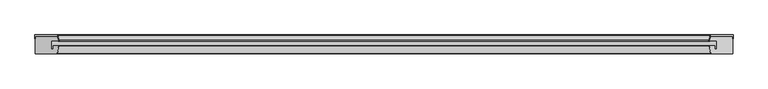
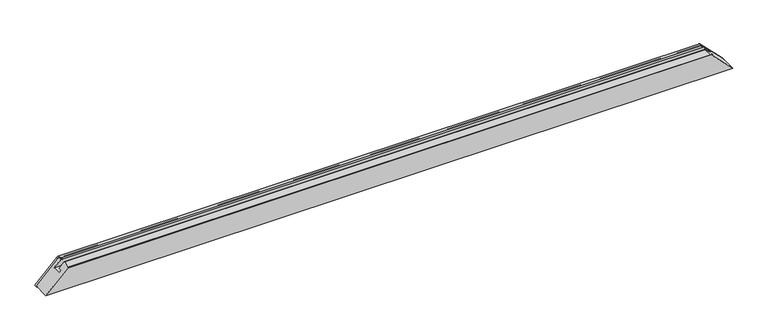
"""IFC4 building model written with IfcOpenShell, lengths in millimetres: proxy geometry, Weiku - Montante - Caixilho fixo 02.2.01.005 : Weiku - Montante - Caixilho fixo 02.2.01.005."""

import ifcopenshell
import ifcopenshell.guid

model = None  # the IFC model being written
_history = None  # IfcOwnerHistory: only IFC2X3 demands one
_inside = {}  # id of a spatial element -> (the spatial element, [elements in it])
_under = {}  # id of a project, library or spatial element -> (it, [spatial elements below it])
_declared = {}  # id of a project -> (the project, [libraries it declares])
_typed = {}  # id of a type object -> (the type object, [elements of that type])
_made_of = {}  # id of a material, layer set ... -> (it, [elements and type objects made of it])


def new_model(schema):
    """Start an empty IFC model of exactly this schema.

    Asked for "IFC4X3", IfcOpenShell would pick the latest addendum, in which some entities
    have other attributes; the version numbers below select the first issue.
    IFC2X3 requires an IfcOwnerHistory on every rooted entity: one is made here for all.
    """
    global model, _history
    if schema == "IFC4X3":
        model = ifcopenshell.file(schema_version=(4, 3, 0, 0))
    else:
        model = ifcopenshell.file(schema=schema)
    _inside.clear()
    _under.clear()
    _declared.clear()
    _typed.clear()
    _made_of.clear()
    _history = None
    if model.schema == "IFC2X3":
        org = make("IfcOrganization", Name="unknown")
        user = make(
            "IfcPersonAndOrganization",
            ThePerson=make("IfcPerson", FamilyName="unknown"),
            TheOrganization=org,
        )
        app = make(
            "IfcApplication",
            ApplicationDeveloper=org,
            Version="unknown",
            ApplicationFullName="unknown",
            ApplicationIdentifier="unknown",
        )
        _history = make(
            "IfcOwnerHistory",
            OwningUser=user,
            OwningApplication=app,
            ChangeAction="ADDED",
            CreationDate=0,
        )
    return model


def make(cls, **values):
    """One entity of the class cls with the attributes given. An attribute that is None is left unset."""
    return model.create_entity(
        cls, **{name: value for name, value in values.items() if value is not None}
    )


def rooted(cls, **values):
    """An entity with a GlobalId (a new one), such as an element, a storey or a relation."""
    return make(cls, GlobalId=ifcopenshell.guid.new(), OwnerHistory=_history, **values)


def si_unit(unit_type, name, prefix=None):
    """IfcSIUnit, for example si_unit("LENGTHUNIT", "METRE", prefix="MILLI")."""
    return make("IfcSIUnit", UnitType=unit_type, Prefix=prefix, Name=name)


def assignment(units):
    """IfcUnitAssignment: the units of a project."""
    return None if units is None else make("IfcUnitAssignment", Units=units)


def point(xyz):
    """IfcCartesianPoint."""
    return None if xyz is None else make("IfcCartesianPoint", Coordinates=xyz)


def direction(xyz):
    """IfcDirection."""
    return None if xyz is None else make("IfcDirection", DirectionRatios=xyz)


def frame(location, z_axis=None, x_axis=None):
    """IfcAxis2Placement3D, a coordinate frame: its origin and axes. An axis left out is left unset."""
    return make(
        "IfcAxis2Placement3D",
        Location=point(location),
        Axis=direction(z_axis),
        RefDirection=direction(x_axis),
    )


def origin():
    """The frame at (0, 0, 0) with its axes left unset."""
    return frame((0.0, 0.0, 0.0))


def place(relative_to, where):
    """IfcLocalPlacement: puts the frame where relative to a parent placement (None: the world)."""
    return make(
        "IfcLocalPlacement", PlacementRelTo=relative_to, RelativePlacement=where
    )


def context(
    kind, dimensions, precision=None, world=None, true_north=None, identifier=None
):
    """IfcGeometricRepresentationContext, for example the 3D "Model" context."""
    return make(
        "IfcGeometricRepresentationContext",
        ContextIdentifier=identifier,
        ContextType=kind,
        CoordinateSpaceDimension=dimensions,
        Precision=precision,
        WorldCoordinateSystem=world,
        TrueNorth=true_north,
    )


def project(units=None, contexts=None):
    """IfcProject with its units and contexts."""
    return rooted(
        "IfcProject",
        Name="project",
        RepresentationContexts=contexts,
        UnitsInContext=assignment(units),
    )


def spatial(cls, under=None, at=None, **own):
    """A site, building, storey or space (cls), placed at a placement, below another one or the project."""
    s = rooted(cls, ObjectPlacement=at, **own)
    if under is not None:
        _under.setdefault(under.id(), (under, []))[1].append(s)
    return s


def polyline(points):
    """IfcPolyline through the points."""
    return make("IfcPolyline", Points=[point(p) for p in points])


def ellipse_curve(where, semi_axis1, semi_axis2):
    """IfcEllipse in the frame where."""
    return make(
        "IfcEllipse", Position=where, SemiAxis1=semi_axis1, SemiAxis2=semi_axis2
    )


def shape(context_of_items, identifier, shape_type, items):
    """IfcShapeRepresentation: the items that make up one representation, for example the "Body"."""
    return make(
        "IfcShapeRepresentation",
        ContextOfItems=context_of_items,
        RepresentationIdentifier=identifier,
        RepresentationType=shape_type,
        Items=items,
    )


def source(mapping_origin, context_of_items, identifier, shape_type, items):
    """IfcRepresentationMap: a shape defined once, which mapped items show again and again."""
    return make(
        "IfcRepresentationMap",
        MappingOrigin=mapping_origin,
        MappedRepresentation=shape(context_of_items, identifier, shape_type, items),
    )


def transform(
    local_origin,
    x_axis=None,
    y_axis=None,
    z_axis=None,
    scale=None,
    scale2=None,
    scale3=None,
    uniform=True,
):
    """IfcCartesianTransformationOperator3D, or its non-uniform kind. x_axis, y_axis, z_axis: its Axis1, 2, 3."""
    if uniform:
        return make(
            "IfcCartesianTransformationOperator3D",
            Axis1=direction(x_axis),
            Axis2=direction(y_axis),
            LocalOrigin=point(local_origin),
            Scale=scale,
            Axis3=direction(z_axis),
        )
    return make(
        "IfcCartesianTransformationOperator3DnonUniform",
        Axis1=direction(x_axis),
        Axis2=direction(y_axis),
        LocalOrigin=point(local_origin),
        Scale=scale,
        Axis3=direction(z_axis),
        Scale2=scale2,
        Scale3=scale3,
    )


def mapped(mapping_source, mapping_target):
    """IfcMappedItem: shows the shape of a source again, moved by a transform."""
    return make(
        "IfcMappedItem", MappingSource=mapping_source, MappingTarget=mapping_target
    )


def made_of(thing, what):
    """Note that an element or type object is made of a material, layer set ...; save() writes the relation."""
    if what is not None:
        _made_of.setdefault(what.id(), (what, []))[1].append(thing)
    return thing


def element(
    cls,
    number,
    at=None,
    inside=None,
    cuts=None,
    type_object=None,
    material=None,
    context=None,
    identifier="Body",
    shape_type=None,
    held_by="IfcProductDefinitionShape",
    body=None,
    shapes=None,
    **own,
):
    """One element of the class cls, such as IfcWall. Its Tag is "e" and its number.

    at: its placement. inside: the storey or other place that contains it. cuts: it is an
    opening in that element (IfcRelVoidsElement). A single representation is given by context,
    identifier, shape_type and body (its items); several are given by shapes. held_by: the class
    of the entity that holds the representations. save() writes the other relations.
    """
    e = rooted(cls, Tag="e%d" % number, ObjectPlacement=at, **own)
    if body is not None:
        shapes = [shape(context, identifier, shape_type, body)]
    if shapes is not None:
        e.Representation = make(held_by, Representations=shapes)
    if inside is not None:
        _inside.setdefault(inside.id(), (inside, []))[1].append(e)
    if cuts is not None:
        rooted(
            "IfcRelVoidsElement", RelatingBuildingElement=cuts, RelatedOpeningElement=e
        )
    if type_object is not None:
        _typed.setdefault(type_object.id(), (type_object, []))[1].append(e)
    return made_of(e, material)


def aggregate(whole, parts):
    """IfcRelAggregates: a whole, such as a stair, and the parts it consists of."""
    return rooted("IfcRelAggregates", RelatingObject=whole, RelatedObjects=parts)


def save(model, path):
    """Write the relations noted so far, then the file.

    IfcRelAggregates (storeys below a building ...), IfcRelContainedInSpatialStructure (elements
    in a storey), IfcRelDefinesByType, IfcRelAssociatesMaterial and IfcRelDeclares: one each for
    every whole, place, type object, material and project.
    """
    for whole, parts in _under.values():
        aggregate(whole, parts)
    for where, things in _inside.values():
        rooted(
            "IfcRelContainedInSpatialStructure",
            RelatedElements=things,
            RelatingStructure=where,
        )
    for kind, things in _typed.values():
        rooted("IfcRelDefinesByType", RelatedObjects=things, RelatingType=kind)
    for what, things in _made_of.values():
        rooted("IfcRelAssociatesMaterial", RelatedObjects=things, RelatingMaterial=what)
    for by, libraries in _declared.values():
        rooted("IfcRelDeclares", RelatingContext=by, RelatedDefinitions=libraries)
    model.write(path)


def plane_surface(at):
    """IfcPlane: the flat surface through the origin of the frame at, square to its z axis."""
    return make("IfcPlane", Position=at)


def cylinder_surface(at, radius):
    """IfcCylindricalSurface: all points at the distance radius from the z axis of the frame at."""
    return make("IfcCylindricalSurface", Position=at, Radius=radius)


def revolved_surface(curve, axis_point, axis_direction):
    """IfcSurfaceOfRevolution: the curve turned about the line through axis_point along axis_direction."""
    return make(
        "IfcSurfaceOfRevolution",
        SweptCurve=make("IfcArbitraryOpenProfileDef", ProfileType="CURVE", Curve=curve),
        AxisPosition=make("IfcAxis1Placement", Location=point(axis_point), Axis=direction(axis_direction)),
    )


def advanced_brep(points, edges, surfaces, faces):
    """IfcAdvancedBrep: a solid bounded by faces that lie on surfaces and meet in shared edges.

    An edge is (start, end): straight between two places in points (the first is 0);
    or (start, end, curve); or (start, end, curve, False) where it runs against its curve.
    A face is (place in surfaces, loops), or (place, loops, False) where it looks against
    its surface's normal. A loop lists edges by number (the first is 1), with a minus sign
    where the edge is run from its end to its start. The first loop is the outer one.
    """
    corners = [point(p) for p in points]
    vertices = [make("IfcVertexPoint", VertexGeometry=c) for c in corners]
    made = []
    for start, end, *more in edges:
        made.append(
            make(
                "IfcEdgeCurve",
                EdgeStart=vertices[start],
                EdgeEnd=vertices[end],
                EdgeGeometry=more[0] if more else make("IfcPolyline", Points=[corners[start], corners[end]]),
                SameSense=more[1] if len(more) > 1 else True,
            )
        )
    hull = []
    for where, loops, *sense in faces:
        bounds = []
        for j, loop in enumerate(loops):
            ring = [make("IfcOrientedEdge", EdgeElement=made[abs(k) - 1], Orientation=k > 0) for k in loop]
            bounds.append(
                make(
                    "IfcFaceOuterBound" if j == 0 else "IfcFaceBound",
                    Bound=make("IfcEdgeLoop", EdgeList=ring),
                    Orientation=True,
                )
            )
        hull.append(make("IfcAdvancedFace", Bounds=bounds, FaceSurface=surfaces[where], SameSense=sense[0] if sense else True))
    return make("IfcAdvancedBrep", Outer=make("IfcClosedShell", CfsFaces=hull))


def generic_models_b147638b(model_context):
    return source(origin(), model_context, "Body", "AdvancedBrep", [
        advanced_brep(
        [(998.0, 43.5137905, -1.0), (998.0, 54.0, -1.0), (932.9663236, 54.0, 64.0336764), (932.0003978, 53.258819, 64.9996022), (928.1863753, 39.0246933, 68.8136247), (930.8909676, 35.5, 66.1090324), (930.8909676, 37.5, 66.1090324), (930.118227, 38.5070552, 66.881773), (932.6019557, 47.7764571, 64.3980443), (935.4997332, 50.0, 61.5002668), (997.0, 50.0, 0.0), (997.0, 43.5137905, 0.0), (-998.0, 54.0, -1.0), (-998.0, 43.5137905, -1.0), (-997.0, 43.5137905, 0.0), (-997.0, 50.0, 0.0), (-935.4997332, 50.0, 61.5002668), (-932.6019557, 47.7764571, 64.3980443), (-930.118227, 38.5070552, 66.881773), (-930.8909676, 37.5, 66.1090324), (-930.8909676, 35.5, 66.1090324), (-928.1863753, 39.0246933, 68.8136247), (-932.0003978, 53.258819, 64.9996022), (-932.9663236, 54.0, 64.0336764)],
        [
            (0, 1),
            (1, 2),
            (2, 3, ellipse_curve(frame((932.9663236, 53.0, 64.0336764), z_axis=(0.7071067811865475, 0.0, 0.7071067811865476), x_axis=(-0.7071067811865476, 0.0, 0.7071067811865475)), 1.4142136, 1.0)),
            (3, 4),
            (4, 5, ellipse_curve(frame((930.8909676, 38.3, 66.1090324), z_axis=(0.7071067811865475, 0.0, 0.7071067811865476), x_axis=(-0.7071067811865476, 0.0, 0.7071067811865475)), 3.959798, 2.8)),
            (5, 6),
            (6, 7, ellipse_curve(frame((930.8909676, 38.3, 66.1090324), z_axis=(-0.7071067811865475, 0.0, -0.7071067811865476), x_axis=(0.7071067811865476, 0.0, -0.7071067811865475)), 1.1313708, 0.8)),
            (7, 8),
            (8, 9, ellipse_curve(frame((935.4997332, 47.0, 61.5002668), z_axis=(-0.7071067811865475, 0.0, -0.7071067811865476), x_axis=(0.7071067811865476, 0.0, -0.7071067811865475)), 4.2426407, 3.0)),
            (9, 10),
            (10, 11),
            (11, 0),
            (12, 13),
            (13, 14),
            (14, 15),
            (15, 16),
            (16, 17, ellipse_curve(frame((-935.4997332, 47.0, 61.5002668), z_axis=(0.7071067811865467, 0.0, -0.7071067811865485), x_axis=(0.7071067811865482, 0.0, 0.7071067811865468)), 4.2426407, 3.0)),
            (17, 18),
            (18, 19, ellipse_curve(frame((-930.8909676, 38.3, 66.1090324), z_axis=(0.7071067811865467, 0.0, -0.7071067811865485), x_axis=(0.7071067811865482, 0.0, 0.7071067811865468)), 1.1313708, 0.8)),
            (19, 20),
            (20, 21, ellipse_curve(frame((-930.8909676, 38.3, 66.1090324), z_axis=(-0.7071067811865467, 0.0, 0.7071067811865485), x_axis=(-0.7071067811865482, 0.0, -0.7071067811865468)), 3.959798, 2.8)),
            (21, 22),
            (22, 23, ellipse_curve(frame((-932.9663236, 53.0, 64.0336764), z_axis=(-0.7071067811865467, 0.0, 0.7071067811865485), x_axis=(-0.7071067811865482, 0.0, -0.7071067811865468)), 1.4142136, 1.0)),
            (23, 12),
            (0, 13),
            (12, 1),
            (11, 14),
            (10, 15),
            (9, 16),
            (8, 17),
            (7, 18),
            (6, 19),
            (5, 20),
            (4, 21),
            (3, 22),
            (2, 23),
        ],
        [
            plane_surface(frame((927.0, -15.0, 70.0), z_axis=(0.7071067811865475, 0.0, 0.7071067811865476), x_axis=(0.0, 1.0, 0.0))),
            plane_surface(frame((-1067.0, -15.0, -70.0), z_axis=(-0.7071067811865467, 0.0, 0.7071067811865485), x_axis=(0.0, 1.0, 0.0))),
            plane_surface(frame((-999.8284271, 54.0, -1.0), z_axis=(0.0, 0.0, -1.0), x_axis=(1.0, 0.0, 0.0))),
            plane_surface(frame((-999.8284271, 43.5137905, -1.0), z_axis=(0.0, -1.0, 0.0), x_axis=(1.0, 0.0, 0.0))),
            plane_surface(frame((-999.8284271, 43.5137905, 0.0), z_axis=(0.0, 0.0, 1.0), x_axis=(1.0, 0.0, 0.0))),
            plane_surface(frame((-999.8284271, 50.0, 0.0), z_axis=(0.0, -1.0, 0.0), x_axis=(1.0, 0.0, 0.0))),
            revolved_surface(polyline([(938.4997332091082, 44.0, 61.5002668), (-938.4997332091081, 44.0, 61.5002668)]), (-999.8284271, 47.0, 61.5002668), (1.0, 0.0, 0.0)),
            plane_surface(frame((-999.8284271, 47.7764571, 64.3980443), z_axis=(0.0, -0.2588190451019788, -0.9659258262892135), x_axis=(1.0, 0.0, 0.0))),
            revolved_surface(polyline([(931.6909675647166, 37.5, 66.1090324), (-931.6909675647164, 37.5, 66.1090324)]), (-999.8284271, 38.3, 66.1090324), (1.0, 0.0, 0.0)),
            plane_surface(frame((-999.8284271, 37.5, 66.1090324), z_axis=(0.0, 0.0, -1.0), x_axis=(1.0, 0.0, 0.0))),
            cylinder_surface(frame((-999.8284271, 38.3, 66.1090324), z_axis=(-1.0, 0.0, 0.0), x_axis=(0.0, -1.0, 0.0)), 2.8),
            plane_surface(frame((-999.8284271, 39.0246933, 68.8136247), z_axis=(0.0, 0.25881904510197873, 0.9659258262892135), x_axis=(1.0, 0.0, 0.0))),
            cylinder_surface(frame((-999.8284271, 53.0, 64.0336764), z_axis=(-1.0, 0.0, 0.0), x_axis=(0.0, -1.0, 0.0)), 1.0),
            plane_surface(frame((-999.8284271, 54.0, 64.0336764), z_axis=(0.0, 1.0, 0.0), x_axis=(1.0, 0.0, 0.0))),
        ],
        [
            (0, [[1, 2, 3, 4, 5, 6, 7, 8, 9, 10, 11, 12]]),
            (1, [[13, 14, 15, 16, 17, 18, 19, 20, 21, 22, 23, 24]]),
            (2, [[-1, 25, -13, 26]]),
            (3, [[-12, 27, -14, -25]]),
            (4, [[-11, 28, -15, -27]]),
            (5, [[-10, 29, -16, -28]]),
            (6, [[-9, 30, -17, -29]]),
            (7, [[-8, 31, -18, -30]]),
            (8, [[-7, 32, -19, -31]]),
            (9, [[-6, 33, -20, -32]]),
            (10, [[-5, 34, -21, -33]]),
            (11, [[-4, 35, -22, -34]]),
            (12, [[-3, 36, -23, -35]]),
            (13, [[-2, -26, -24, -36]]),
        ],
    ),
        advanced_brep(
        [(-930.118227, 38.5070552, 66.881773), (-932.6019557, 47.7764571, 64.3980443), (-935.4997332, 50.0, 61.5002668), (-997.0, 50.0, 0.0), (-997.0, 0.0, 0.0), (-934.5355572, 0.0, 62.4644428), (-933.5489094, 0.8371317, 63.4510906), (-929.9998537, 22.3371317, 67.0001463), (-930.9865015, 23.5, 66.0134985), (-945.0009154, 23.5, 51.9990846), (-945.0009154, 12.5, 51.9990846), (-951.0, 12.5, 46.0), (-951.0, 37.5, 46.0), (-930.8909676, 37.5, 66.1090324), (932.6019557, 47.7764571, 64.3980443), (930.118227, 38.5070552, 66.881773), (930.8909676, 37.5, 66.1090324), (951.0, 37.5, 46.0), (951.0, 12.5, 46.0), (945.0009154, 12.5, 51.9990846), (945.0009154, 23.5, 51.9990846), (930.9865015, 23.5, 66.0134985), (929.9998537, 22.3371317, 67.0001463), (933.5489094, 0.8371317, 63.4510906), (934.5355572, 0.0, 62.4644428), (997.0, 0.0, 0.0), (997.0, 50.0, 0.0), (935.4997332, 50.0, 61.5002668)],
        [
            (0, 1),
            (1, 2, ellipse_curve(frame((-935.4997332, 47.0, 61.5002668), z_axis=(-0.7071067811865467, 0.0, 0.7071067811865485), x_axis=(-0.7071067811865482, 0.0, -0.7071067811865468)), 4.2426407, 3.0)),
            (2, 3),
            (3, 4),
            (4, 5),
            (5, 6, ellipse_curve(frame((-934.5355572, 1.0, 62.4644428), z_axis=(-0.7071067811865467, 0.0, 0.7071067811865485), x_axis=(-0.7071067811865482, 0.0, -0.7071067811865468)), 1.4142136, 1.0)),
            (6, 7),
            (7, 8, ellipse_curve(frame((-930.9865015, 22.5, 66.0134985), z_axis=(-0.7071067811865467, 0.0, 0.7071067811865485), x_axis=(-0.7071067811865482, 0.0, -0.7071067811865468)), 1.4142136, 1.0)),
            (8, 9),
            (9, 10),
            (10, 11),
            (11, 12),
            (12, 13),
            (13, 0, ellipse_curve(frame((-930.8909676, 38.3, 66.1090324), z_axis=(-0.7071067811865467, 0.0, 0.7071067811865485), x_axis=(-0.7071067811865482, 0.0, -0.7071067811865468)), 1.1313708, 0.8)),
            (14, 15),
            (15, 16, ellipse_curve(frame((930.8909676, 38.3, 66.1090324), z_axis=(0.7071067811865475, 0.0, 0.7071067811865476), x_axis=(-0.7071067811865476, 0.0, 0.7071067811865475)), 1.1313708, 0.8)),
            (16, 17),
            (17, 18),
            (18, 19),
            (19, 20),
            (20, 21),
            (21, 22, ellipse_curve(frame((930.9865015, 22.5, 66.0134985), z_axis=(0.7071067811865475, 0.0, 0.7071067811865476), x_axis=(-0.7071067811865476, 0.0, 0.7071067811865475)), 1.4142136, 1.0)),
            (22, 23),
            (23, 24, ellipse_curve(frame((934.5355572, 1.0, 62.4644428), z_axis=(0.7071067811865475, 0.0, 0.7071067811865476), x_axis=(-0.7071067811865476, 0.0, 0.7071067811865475)), 1.4142136, 1.0)),
            (24, 25),
            (25, 26),
            (26, 27),
            (27, 14, ellipse_curve(frame((935.4997332, 47.0, 61.5002668), z_axis=(0.7071067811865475, 0.0, 0.7071067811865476), x_axis=(-0.7071067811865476, 0.0, 0.7071067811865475)), 4.2426407, 3.0)),
            (0, 15),
            (14, 1),
            (27, 2),
            (26, 3),
            (25, 4),
            (24, 5),
            (23, 6),
            (22, 7),
            (21, 8),
            (20, 9),
            (19, 10),
            (18, 11),
            (17, 12),
            (16, 13),
        ],
        [
            plane_surface(frame((-1067.0, -15.0, -70.0), z_axis=(-0.7071067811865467, 0.0, 0.7071067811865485), x_axis=(0.0, 1.0, 0.0))),
            plane_surface(frame((927.0, -15.0, 70.0), z_axis=(0.7071067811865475, 0.0, 0.7071067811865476), x_axis=(0.0, 1.0, 0.0))),
            plane_surface(frame((-997.0, 38.5070552, 66.881773), z_axis=(0.0, 0.2588190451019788, 0.9659258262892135), x_axis=(1.0, 0.0, 0.0))),
            cylinder_surface(frame((-997.0, 47.0, 61.5002668), z_axis=(-1.0, 0.0, 0.0), x_axis=(0.0, -1.0, 0.0)), 3.0),
            plane_surface(frame((-997.0, 50.0, 61.5002668), z_axis=(0.0, 1.0, 0.0), x_axis=(1.0, 0.0, 0.0))),
            plane_surface(frame((-997.0, 50.0, 0.0), z_axis=(0.0, 0.0, -1.0), x_axis=(1.0, 0.0, 0.0))),
            plane_surface(frame((-997.0, 0.0, 0.0), z_axis=(0.0, -1.0, 0.0), x_axis=(1.0, 0.0, 0.0))),
            cylinder_surface(frame((-997.0, 1.0, 62.4644428), z_axis=(-1.0, 0.0, 0.0), x_axis=(0.0, 1.0, 0.0)), 1.0),
            plane_surface(frame((-997.0, 0.8371317, 63.4510906), z_axis=(0.0, -0.16286828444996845, 0.9866478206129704), x_axis=(1.0, 0.0, 0.0))),
            cylinder_surface(frame((-997.0, 22.5, 66.0134985), z_axis=(-1.0, 0.0, 0.0), x_axis=(0.0, 1.0, 0.0)), 1.0),
            plane_surface(frame((-997.0, 23.5, 66.0134985), z_axis=(0.0, 1.0, 0.0), x_axis=(1.0, 0.0, 0.0))),
            plane_surface(frame((-997.0, 23.5, 51.9990846), z_axis=(0.0, 0.0, -1.0), x_axis=(1.0, 0.0, 0.0))),
            plane_surface(frame((-997.0, 12.5, 51.9990846), z_axis=(0.0, 1.0, 0.0), x_axis=(1.0, 0.0, 0.0))),
            plane_surface(frame((-997.0, 12.5, 46.0), z_axis=(0.0, 0.0, 1.0), x_axis=(1.0, 0.0, 0.0))),
            plane_surface(frame((-997.0, 37.5, 46.0), z_axis=(0.0, -1.0, 0.0), x_axis=(1.0, 0.0, 0.0))),
            cylinder_surface(frame((-997.0, 38.3, 66.1090324), z_axis=(-1.0, 0.0, 0.0), x_axis=(0.0, -1.0, 0.0)), 0.8),
        ],
        [
            (0, [[1, 2, 3, 4, 5, 6, 7, 8, 9, 10, 11, 12, 13, 14]]),
            (1, [[15, 16, 17, 18, 19, 20, 21, 22, 23, 24, 25, 26, 27, 28]]),
            (2, [[-1, 29, -15, 30]]),
            (3, [[-2, -30, -28, 31]]),
            (4, [[32, -3, -31, -27]]),
            (5, [[-32, -26, 33, -4]]),
            (6, [[-33, -25, 34, -5]]),
            (7, [[-6, -34, -24, 35]]),
            (8, [[-7, -35, -23, 36]]),
            (9, [[-8, -36, -22, 37]]),
            (10, [[-9, -37, -21, 38]]),
            (11, [[-10, -38, -20, 39]]),
            (12, [[-11, -39, -19, 40]]),
            (13, [[-12, -40, -18, 41]]),
            (14, [[-13, -41, -17, 42]]),
            (15, [[-14, -42, -16, -29]]),
        ],
    ),
    ])


if __name__ == "__main__":
    model = new_model("IFC4")
    model_context = context("Model", 3, world=origin())
    ifc_project = project(units=[si_unit("LENGTHUNIT", "METRE", prefix="MILLI")], contexts=[model_context])
    site = spatial("IfcSite", under=ifc_project)
    building = spatial("IfcBuilding", under=site)
    placement = place(None, origin())
    generic_models_shape = generic_models_b147638b(model_context)
    element("IfcBuildingElementProxy", 1, Name="Weiku - Montante - Caixilho fixo 02.2.01.005 : Weiku - Montante - Caixilho fixo 02.2.01.005", ObjectType="Weiku - Montante - Caixilho fixo 02.2.01.005 : Weiku - Montante - Caixilho fixo 02.2.01.005", at=placement, inside=building, context=model_context, shape_type="MappedRepresentation", body=[
        mapped(generic_models_shape, transform((0.0, 0.0, 0.0), x_axis=(1.0, 0.0, 0.0), y_axis=(0.0, 1.0, 0.0), z_axis=(0.0, 0.0, 1.0))),
    ])
    save(model, "model.ifc")
